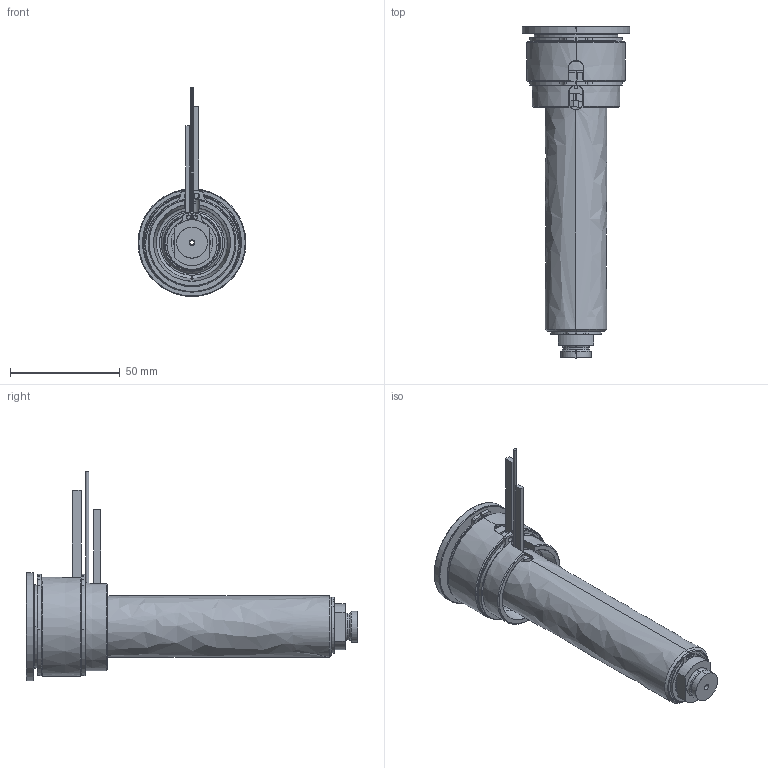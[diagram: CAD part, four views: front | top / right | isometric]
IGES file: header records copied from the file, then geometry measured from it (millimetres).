
Start section: SolidWorks IGES file using analytic representation for surfaces
Global section: file name: C:\Documents and Settings\ws-20\Desktop\TEM\UGBE4503-S-A-3 [Ød-2.0 P-0 ØC-09].IGS; native system: SolidWorks 2012; preprocessor: SolidWorks 2012; author: ws-20; date: 120412.153237; units: millimetre
Bounding box: 49 x 151 x 95.15 mm (x, y, z)
Surface area: 56710.3 mm2 (no closed solid volume)
Topology: 0 solids, 0 shells, 167 faces, 3149 edges, 3149 vertices
Faces by surface type: revolution 106, bspline 61
